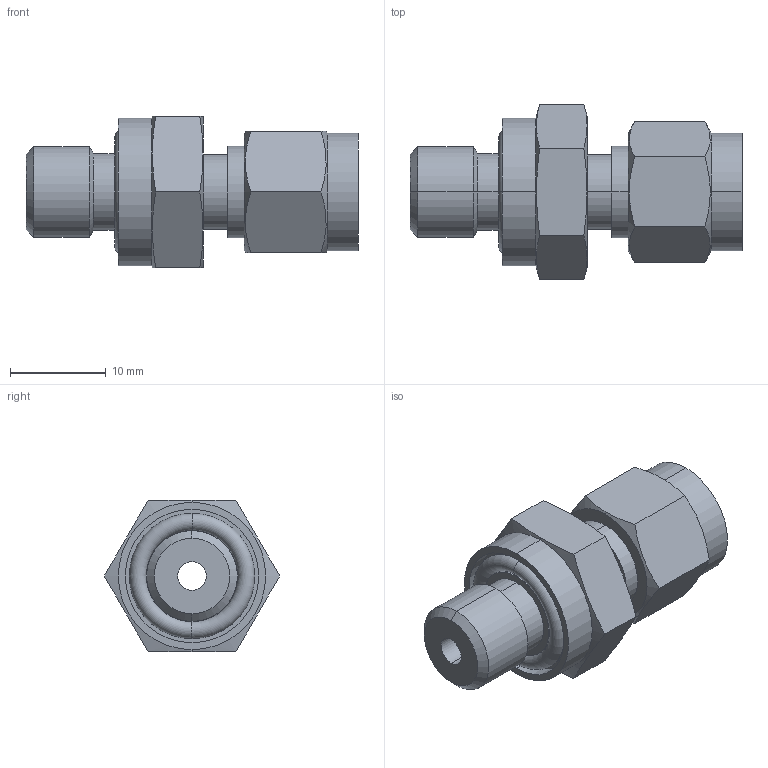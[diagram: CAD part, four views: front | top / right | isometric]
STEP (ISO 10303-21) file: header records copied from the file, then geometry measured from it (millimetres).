
FILE_DESCRIPTION (( 'STEP AP203' ), '1' );
FILE_NAME ('DCO03-03 SS.STEP', '2009-10-08T08:01:39', ( ' ' ), ( '' ), 'SwSTEP 2.0', 'SolidWorks 2008', '' );
FILE_SCHEMA (( 'CONFIG_CONTROL_DESIGN' ));
Length unit declared in the file: millimetre
Products named in the file (1): DCO03-03 SS
Bounding box: 34.7 x 18.34 x 15.88 mm (x, y, z)
Volume: 3845.3 mm3; surface area: 2654.1 mm2
Topology: 2 solids, 2 shells, 61 faces, 136 edges, 84 vertices
Faces by surface type: plane 21, cylinder 20, cone 16, torus 4
Entity records: 1899 total; most frequent: CARTESIAN_POINT 482, DIRECTION 282, ORIENTED_EDGE 272, EDGE_CURVE 136, AXIS2_PLACEMENT_3D 120, VERTEX_POINT 84, EDGE_LOOP 70, ADVANCED_FACE 61
